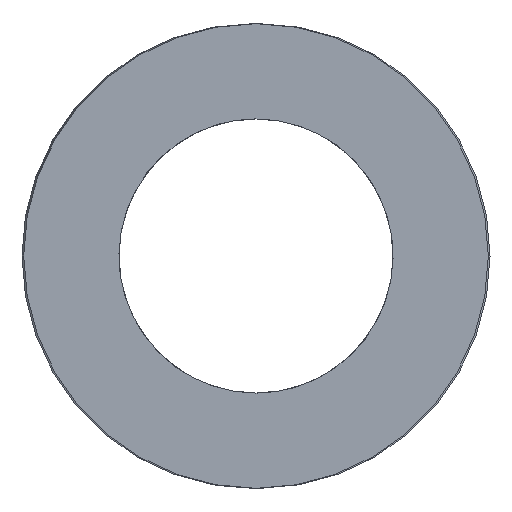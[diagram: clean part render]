
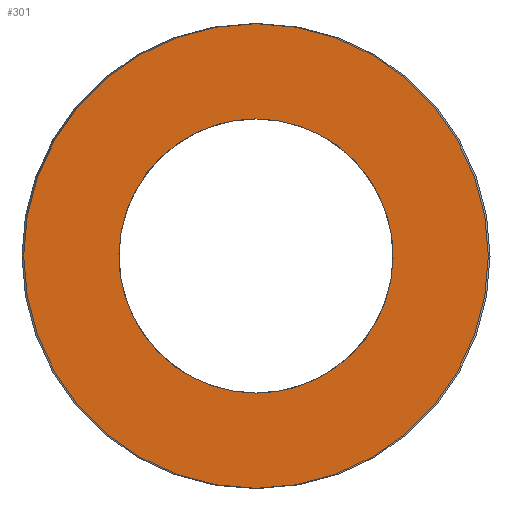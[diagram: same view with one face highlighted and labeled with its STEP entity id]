
A CAD part, left-side view. The second image highlights one B-rep face of the part: STEP entity #301.
In plain terms, the highlighted planar face has unit normal (-1, 0, 0).
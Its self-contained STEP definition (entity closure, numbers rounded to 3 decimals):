
#63=CARTESIAN_POINT('Vertex',(0.,6.1,0.)) ;
#77=CARTESIAN_POINT('Vertex',(0.,-6.1,0.)) ;
#80=CARTESIAN_POINT('Axis2P3D Location',(0.,0.,0.)) ;
#97=CARTESIAN_POINT('Axis2P3D Location',(0.,0.,0.)) ;
#232=CARTESIAN_POINT('Axis2P3D Location',(0.,3.05,0.)) ;
#242=CARTESIAN_POINT('Control Point',(0.,0.,-3.6)) ;
#243=CARTESIAN_POINT('Control Point',(0.,0.372,-3.6)) ;
#244=CARTESIAN_POINT('Control Point',(0.,0.744,-3.552)) ;
#245=CARTESIAN_POINT('Control Point',(0.,1.107,-3.456)) ;
#246=CARTESIAN_POINT('Control Point',(0.,1.801,-3.172)) ;
#247=CARTESIAN_POINT('Control Point',(0.,2.4,-2.722)) ;
#248=CARTESIAN_POINT('Control Point',(0.,2.669,-2.459)) ;
#249=CARTESIAN_POINT('Control Point',(0.,3.133,-1.869)) ;
#250=CARTESIAN_POINT('Control Point',(0.,3.431,-1.182)) ;
#251=CARTESIAN_POINT('Control Point',(0.,3.535,-0.82)) ;
#252=CARTESIAN_POINT('Control Point',(0.,3.647,-0.079)) ;
#253=CARTESIAN_POINT('Control Point',(0.,3.567,0.667)) ;
#254=CARTESIAN_POINT('Control Point',(0.,3.479,1.032)) ;
#255=CARTESIAN_POINT('Control Point',(0.,3.21,1.732)) ;
#256=CARTESIAN_POINT('Control Point',(0.,2.773,2.341)) ;
#257=CARTESIAN_POINT('Control Point',(0.,2.516,2.615)) ;
#258=CARTESIAN_POINT('Control Point',(0.,1.937,3.092)) ;
#259=CARTESIAN_POINT('Control Point',(0.,1.255,3.405)) ;
#260=CARTESIAN_POINT('Control Point',(0.,0.896,3.517)) ;
#261=CARTESIAN_POINT('Control Point',(0.,0.496,3.586)) ;
#262=CARTESIAN_POINT('Control Point',(0.,0.093,3.599)) ;
#263=CARTESIAN_POINT('Control Point',(0.,0.062,3.6)) ;
#264=CARTESIAN_POINT('Control Point',(0.,0.031,3.6)) ;
#265=CARTESIAN_POINT('Control Point',(0.,0.,3.6)) ;
#266=CARTESIAN_POINT('Vertex',(0.,0.,-3.6)) ;
#268=CARTESIAN_POINT('Vertex',(0.,0.,3.6)) ;
#272=CARTESIAN_POINT('Control Point',(0.,0.,3.6)) ;
#273=CARTESIAN_POINT('Control Point',(0.,-0.372,3.6)) ;
#274=CARTESIAN_POINT('Control Point',(0.,-0.744,3.552)) ;
#275=CARTESIAN_POINT('Control Point',(0.,-1.107,3.456)) ;
#276=CARTESIAN_POINT('Control Point',(0.,-1.801,3.172)) ;
#277=CARTESIAN_POINT('Control Point',(0.,-2.4,2.722)) ;
#278=CARTESIAN_POINT('Control Point',(0.,-2.669,2.459)) ;
#279=CARTESIAN_POINT('Control Point',(0.,-3.133,1.869)) ;
#280=CARTESIAN_POINT('Control Point',(0.,-3.431,1.182)) ;
#281=CARTESIAN_POINT('Control Point',(0.,-3.535,0.82)) ;
#282=CARTESIAN_POINT('Control Point',(0.,-3.647,0.079)) ;
#283=CARTESIAN_POINT('Control Point',(0.,-3.567,-0.667)) ;
#284=CARTESIAN_POINT('Control Point',(0.,-3.479,-1.032)) ;
#285=CARTESIAN_POINT('Control Point',(0.,-3.21,-1.732)) ;
#286=CARTESIAN_POINT('Control Point',(0.,-2.773,-2.341)) ;
#287=CARTESIAN_POINT('Control Point',(0.,-2.516,-2.615)) ;
#288=CARTESIAN_POINT('Control Point',(0.,-1.937,-3.092)) ;
#289=CARTESIAN_POINT('Control Point',(0.,-1.255,-3.405)) ;
#290=CARTESIAN_POINT('Control Point',(0.,-0.896,-3.517)) ;
#291=CARTESIAN_POINT('Control Point',(0.,-0.496,-3.586)) ;
#292=CARTESIAN_POINT('Control Point',(0.,-0.093,-3.599)) ;
#293=CARTESIAN_POINT('Control Point',(0.,-0.062,-3.6)) ;
#294=CARTESIAN_POINT('Control Point',(0.,-0.031,-3.6)) ;
#295=CARTESIAN_POINT('Control Point',(0.,0.,-3.6)) ;
#81=DIRECTION('Axis2P3D Direction',(1.,-0.,0.)) ;
#98=DIRECTION('Axis2P3D Direction',(1.,-0.,0.)) ;
#233=DIRECTION('Axis2P3D Direction',(-1.,0.,0.)) ;
#234=DIRECTION('Axis2P3D XDirection',(0.,1.,0.)) ;
#82=AXIS2_PLACEMENT_3D('Circle Axis2P3D',#80,#81,$) ;
#99=AXIS2_PLACEMENT_3D('Circle Axis2P3D',#97,#98,$) ;
#235=AXIS2_PLACEMENT_3D('Plane Axis2P3D',#232,#233,#234) ;
#238=ORIENTED_EDGE('',*,*,#84,.T.) ;
#239=ORIENTED_EDGE('',*,*,#101,.T.) ;
#298=ORIENTED_EDGE('',*,*,#270,.T.) ;
#299=ORIENTED_EDGE('',*,*,#296,.T.) ;
#300=FACE_BOUND('',#297,.T.) ;
#301=ADVANCED_FACE('392-B13-089',(#240,#300),#236,.T.) ;
#241=B_SPLINE_CURVE_WITH_KNOTS('',5,(#242,#243,#244,#245,#246,#247,#248,#249,#250,#251,#252,#253,#254,#255,#256,#257,#258,#259,#260,#261,#262,#263,#264,#265),.UNSPECIFIED.,.F.,.U.,(6,3,3,3,3,3,3,6),(0.,2.629,5.258,7.887,10.516,13.145,15.774,15.994),.UNSPECIFIED.) ;
#271=B_SPLINE_CURVE_WITH_KNOTS('',5,(#272,#273,#274,#275,#276,#277,#278,#279,#280,#281,#282,#283,#284,#285,#286,#287,#288,#289,#290,#291,#292,#293,#294,#295),.UNSPECIFIED.,.F.,.U.,(6,3,3,3,3,3,3,6),(0.,2.629,5.258,7.887,10.516,13.145,15.774,15.994),.UNSPECIFIED.) ;
#83=CIRCLE('generated circle',#82,6.1) ;
#100=CIRCLE('generated circle',#99,6.1) ;
#84=EDGE_CURVE('',#64,#78,#83,.F.) ;
#101=EDGE_CURVE('',#78,#64,#100,.F.) ;
#270=EDGE_CURVE('',#267,#269,#241,.T.) ;
#296=EDGE_CURVE('',#269,#267,#271,.T.) ;
#237=EDGE_LOOP('',(#238,#239)) ;
#297=EDGE_LOOP('',(#298,#299)) ;
#240=FACE_OUTER_BOUND('',#237,.T.) ;
#236=PLANE('Plane',#235) ;
#64=VERTEX_POINT('',#63) ;
#78=VERTEX_POINT('',#77) ;
#267=VERTEX_POINT('',#266) ;
#269=VERTEX_POINT('',#268) ;
